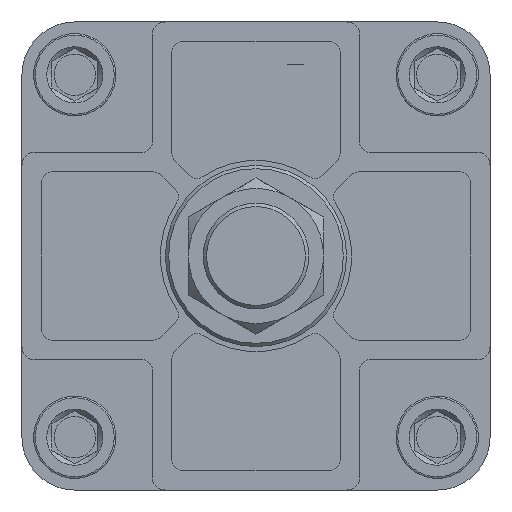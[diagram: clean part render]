
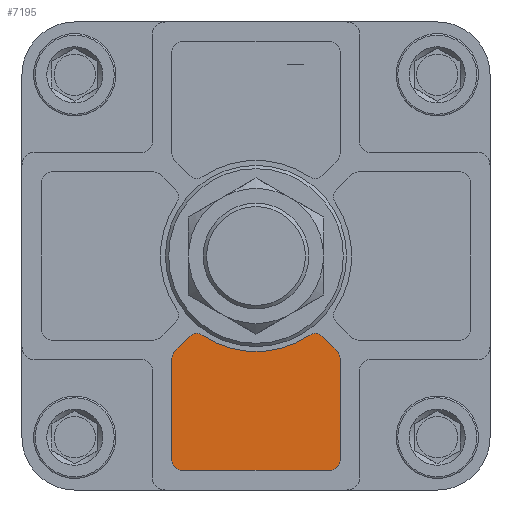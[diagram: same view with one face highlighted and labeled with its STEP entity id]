
A CAD part, front view. The second image highlights one B-rep face of the part: STEP entity #7195.
In plain terms, the highlighted planar face has unit normal (0, -1, 0).
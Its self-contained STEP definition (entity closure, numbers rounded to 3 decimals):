
#243=CIRCLE('',#7557,3.);
#244=CIRCLE('',#7558,3.);
#245=CIRCLE('',#7559,3.);
#246=CIRCLE('',#7560,3.);
#247=CIRCLE('',#7561,3.);
#248=CIRCLE('',#7562,29.);
#249=CIRCLE('',#7563,3.);
#589=ORIENTED_EDGE('',*,*,#2082,.F.);
#590=ORIENTED_EDGE('',*,*,#2083,.T.);
#591=ORIENTED_EDGE('',*,*,#2084,.F.);
#592=ORIENTED_EDGE('',*,*,#2085,.T.);
#593=ORIENTED_EDGE('',*,*,#2086,.F.);
#594=ORIENTED_EDGE('',*,*,#2087,.T.);
#595=ORIENTED_EDGE('',*,*,#2088,.F.);
#596=ORIENTED_EDGE('',*,*,#2089,.T.);
#597=ORIENTED_EDGE('',*,*,#2090,.F.);
#598=ORIENTED_EDGE('',*,*,#2091,.T.);
#599=ORIENTED_EDGE('',*,*,#2092,.F.);
#600=ORIENTED_EDGE('',*,*,#2093,.T.);
#2082=EDGE_CURVE('',#2830,#2831,#3359,.T.);
#2083=EDGE_CURVE('',#2830,#2832,#243,.F.);
#2084=EDGE_CURVE('',#2833,#2832,#3360,.T.);
#2085=EDGE_CURVE('',#2833,#2834,#244,.F.);
#2086=EDGE_CURVE('',#2835,#2834,#3361,.T.);
#2087=EDGE_CURVE('',#2835,#2836,#245,.F.);
#2088=EDGE_CURVE('',#2837,#2836,#3362,.T.);
#2089=EDGE_CURVE('',#2837,#2838,#246,.F.);
#2090=EDGE_CURVE('',#2839,#2838,#3363,.T.);
#2091=EDGE_CURVE('',#2839,#2840,#247,.F.);
#2092=EDGE_CURVE('',#2841,#2840,#248,.T.);
#2093=EDGE_CURVE('',#2841,#2831,#249,.F.);
#2830=VERTEX_POINT('',#9923);
#2831=VERTEX_POINT('',#9924);
#2832=VERTEX_POINT('',#9926);
#2833=VERTEX_POINT('',#9928);
#2834=VERTEX_POINT('',#9930);
#2835=VERTEX_POINT('',#9932);
#2836=VERTEX_POINT('',#9934);
#2837=VERTEX_POINT('',#9936);
#2838=VERTEX_POINT('',#9938);
#2839=VERTEX_POINT('',#9940);
#2840=VERTEX_POINT('',#9942);
#2841=VERTEX_POINT('',#9944);
#3359=LINE('',#9922,#3787);
#3360=LINE('',#9927,#3788);
#3361=LINE('',#9931,#3789);
#3362=LINE('',#9935,#3790);
#3363=LINE('',#9939,#3791);
#3787=VECTOR('',#8227,1000.);
#3788=VECTOR('',#8230,1000.);
#3789=VECTOR('',#8233,1000.);
#3790=VECTOR('',#8236,1000.);
#3791=VECTOR('',#8239,1000.);
#4212=EDGE_LOOP('',(#589,#590,#591,#592,#593,#594,#595,#596,#597,#598,#599,
#600));
#4656=FACE_BOUND('',#4212,.T.);
#5094=PLANE('',#7556);
#7195=ADVANCED_FACE('',(#4656),#5094,.F.);
#7556=AXIS2_PLACEMENT_3D('',#9921,#8225,#8226);
#7557=AXIS2_PLACEMENT_3D('',#9925,#8228,#8229);
#7558=AXIS2_PLACEMENT_3D('',#9929,#8231,#8232);
#7559=AXIS2_PLACEMENT_3D('',#9933,#8234,#8235);
#7560=AXIS2_PLACEMENT_3D('',#9937,#8237,#8238);
#7561=AXIS2_PLACEMENT_3D('',#9941,#8240,#8241);
#7562=AXIS2_PLACEMENT_3D('',#9943,#8242,#8243);
#7563=AXIS2_PLACEMENT_3D('',#9945,#8244,#8245);
#8225=DIRECTION('',(0.,1.,0.));
#8226=DIRECTION('',(0.,0.,1.));
#8227=DIRECTION('',(0.707,0.,0.707));
#8228=DIRECTION('',(0.,1.,0.));
#8229=DIRECTION('',(0.,0.,1.));
#8230=DIRECTION('',(0.,0.,1.));
#8231=DIRECTION('',(0.,1.,0.));
#8232=DIRECTION('',(0.,0.,1.));
#8233=DIRECTION('',(-1.,0.,0.));
#8234=DIRECTION('',(0.,1.,0.));
#8235=DIRECTION('',(0.,0.,1.));
#8236=DIRECTION('',(0.,0.,-1.));
#8237=DIRECTION('',(0.,1.,0.));
#8238=DIRECTION('',(0.,0.,1.));
#8239=DIRECTION('',(0.707,0.,-0.707));
#8240=DIRECTION('',(0.,1.,0.));
#8241=DIRECTION('',(0.,0.,1.));
#8242=DIRECTION('',(0.,-1.,0.));
#8243=DIRECTION('',(1.,0.,0.));
#8244=DIRECTION('',(0.,1.,0.));
#8245=DIRECTION('',(0.,0.,1.));
#9921=CARTESIAN_POINT('',(0.,-29.,0.));
#9922=CARTESIAN_POINT('',(-18.275,-29.,-22.517));
#9923=CARTESIAN_POINT('',(-24.621,-29.,-28.864));
#9924=CARTESIAN_POINT('',(-20.105,-29.,-24.347));
#9925=CARTESIAN_POINT('',(-22.5,-29.,-30.985));
#9926=CARTESIAN_POINT('',(-25.5,-29.,-30.985));
#9927=CARTESIAN_POINT('',(-25.5,-29.,-31.5));
#9928=CARTESIAN_POINT('',(-25.5,-29.,-62.));
#9929=CARTESIAN_POINT('',(-22.5,-29.,-62.));
#9930=CARTESIAN_POINT('',(-22.5,-29.,-65.));
#9931=CARTESIAN_POINT('',(-25.5,-29.,-65.));
#9932=CARTESIAN_POINT('',(22.5,-29.,-65.));
#9933=CARTESIAN_POINT('',(22.5,-29.,-62.));
#9934=CARTESIAN_POINT('',(25.5,-29.,-62.));
#9935=CARTESIAN_POINT('',(25.5,-29.,-65.));
#9936=CARTESIAN_POINT('',(25.5,-29.,-30.985));
#9937=CARTESIAN_POINT('',(22.5,-29.,-30.985));
#9938=CARTESIAN_POINT('',(24.621,-29.,-28.864));
#9939=CARTESIAN_POINT('',(18.275,-29.,-22.517));
#9940=CARTESIAN_POINT('',(20.105,-29.,-24.347));
#9941=CARTESIAN_POINT('',(17.983,-29.,-26.469));
#9942=CARTESIAN_POINT('',(16.298,-29.,-23.987));
#9943=CARTESIAN_POINT('',(0.,-29.,0.));
#9944=CARTESIAN_POINT('',(-16.298,-29.,-23.987));
#9945=CARTESIAN_POINT('',(-17.983,-29.,-26.469));
